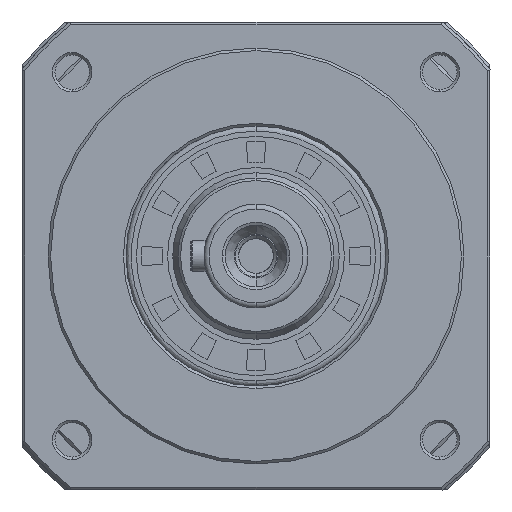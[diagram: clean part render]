
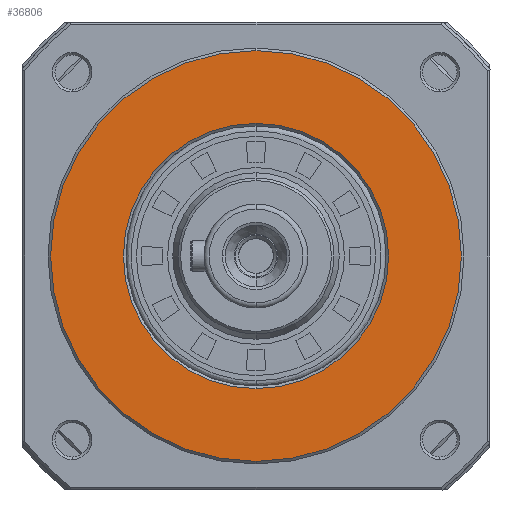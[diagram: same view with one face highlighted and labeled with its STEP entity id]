
A CAD part, left-side view. The second image highlights one B-rep face of the part: STEP entity #36806.
In plain terms, the highlighted planar face has unit normal (-1, 0, 0).
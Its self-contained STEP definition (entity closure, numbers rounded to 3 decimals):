
#5078 = DIRECTION ( 'NONE',  ( 0., 0., -1. ) ) ;
#9071 = AXIS2_PLACEMENT_3D ( 'NONE', #24416, #84221, #83249 ) ;
#13554 = CARTESIAN_POINT ( 'NONE',  ( 0., 0., 0. ) ) ;
#14041 = AXIS2_PLACEMENT_3D ( 'NONE', #13554, #27955, #5078 ) ;
#14941 = DIRECTION ( 'NONE',  ( 0., 0., 1. ) ) ;
#15366 = DIRECTION ( 'NONE',  ( 0., 0., -1. ) ) ;
#15964 = CIRCLE ( 'NONE', #14041, 39.5 ) ;
#24416 = CARTESIAN_POINT ( 'NONE',  ( 0., -39.974, 39.974 ) ) ;
#27226 = FACE_OUTER_BOUND ( 'NONE', #75848, .T. ) ;
#27371 = DIRECTION ( 'NONE',  ( 0., 0., 1. ) ) ;
#27935 = ORIENTED_EDGE ( 'NONE', *, *, #89223, .T. ) ;
#27955 = DIRECTION ( 'NONE',  ( -1., 0., 0. ) ) ;
#35044 = CARTESIAN_POINT ( 'NONE',  ( 0., 0., 0. ) ) ;
#35351 = VERTEX_POINT ( 'NONE', #38482 ) ;
#36806 = ADVANCED_FACE ( 'NONE', ( #56371, #27226 ), #83574, .F. ) ;
#38482 = CARTESIAN_POINT ( 'NONE',  ( 0., 0., -25.5 ) ) ;
#39441 = CARTESIAN_POINT ( 'NONE',  ( 0., 0., 0. ) ) ;
#40827 = VERTEX_POINT ( 'NONE', #40834 ) ;
#40834 = CARTESIAN_POINT ( 'NONE',  ( 0., 0., -39.5 ) ) ;
#42029 = ORIENTED_EDGE ( 'NONE', *, *, #90145, .F. ) ;
#42268 = CARTESIAN_POINT ( 'NONE',  ( 0., 0., 39.5 ) ) ;
#43079 = AXIS2_PLACEMENT_3D ( 'NONE', #50176, #49852, #27371 ) ;
#44928 = CIRCLE ( 'NONE', #75162, 25.5 ) ;
#46279 = CARTESIAN_POINT ( 'NONE',  ( 0., 0., 25.5 ) ) ;
#47361 = VERTEX_POINT ( 'NONE', #42268 ) ;
#49166 = ORIENTED_EDGE ( 'NONE', *, *, #71071, .F. ) ;
#49852 = DIRECTION ( 'NONE',  ( -1., 0., 0. ) ) ;
#50176 = CARTESIAN_POINT ( 'NONE',  ( 0., 0., 0. ) ) ;
#53291 = ORIENTED_EDGE ( 'NONE', *, *, #88808, .T. ) ;
#53312 = EDGE_LOOP ( 'NONE', ( #49166, #42029 ) ) ;
#56371 = FACE_BOUND ( 'NONE', #53312, .T. ) ;
#59903 = DIRECTION ( 'NONE',  ( -1., 0., 0. ) ) ;
#61578 = AXIS2_PLACEMENT_3D ( 'NONE', #35044, #71805, #15366 ) ;
#67895 = CIRCLE ( 'NONE', #43079, 25.5 ) ;
#71071 = EDGE_CURVE ( 'NONE', #91699, #35351, #67895, .T. ) ;
#71805 = DIRECTION ( 'NONE',  ( -1., 0., 0. ) ) ;
#75162 = AXIS2_PLACEMENT_3D ( 'NONE', #39441, #59903, #14941 ) ;
#75848 = EDGE_LOOP ( 'NONE', ( #53291, #27935 ) ) ;
#83249 = DIRECTION ( 'NONE',  ( 0., 0., -1. ) ) ;
#83574 = PLANE ( 'NONE',  #9071 ) ;
#84221 = DIRECTION ( 'NONE',  ( 1., 0., 0. ) ) ;
#84624 = CIRCLE ( 'NONE', #61578, 39.5 ) ;
#88808 = EDGE_CURVE ( 'NONE', #40827, #47361, #15964, .T. ) ;
#89223 = EDGE_CURVE ( 'NONE', #47361, #40827, #84624, .T. ) ;
#90145 = EDGE_CURVE ( 'NONE', #35351, #91699, #44928, .T. ) ;
#91699 = VERTEX_POINT ( 'NONE', #46279 ) ;
